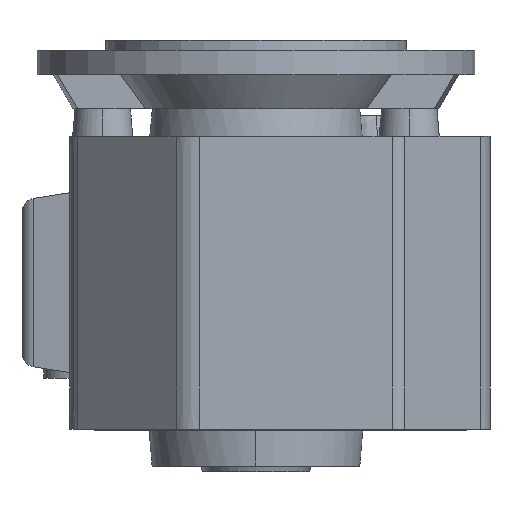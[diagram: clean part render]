
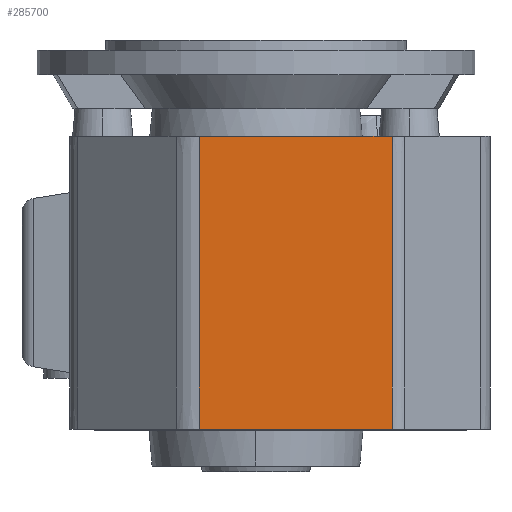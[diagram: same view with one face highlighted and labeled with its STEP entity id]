
A CAD part, left-side view. The second image highlights one B-rep face of the part: STEP entity #285700.
In plain terms, the highlighted planar face has unit normal (-1, 0, 0).
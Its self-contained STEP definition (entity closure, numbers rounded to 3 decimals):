
#150570=CARTESIAN_POINT('',(-368.958,-231.769,
-8.483));
#150580=VERTEX_POINT('',#150570);
#150610=CARTESIAN_POINT('',(-368.958,-393.27,
-8.483));
#150620=DIRECTION('',(0.,1.,0.));
#150630=VECTOR('',#150620,1.);
#150640=LINE('',#150610,#150630);
#150650=CARTESIAN_POINT('',(-368.958,-302.225,
-8.483));
#150660=VERTEX_POINT('',#150650);
#150670=EDGE_CURVE('',#150660,#150580,#150640,.T.);
#257700=CARTESIAN_POINT('',(-368.958,-302.225,
98.517));
#257710=VERTEX_POINT('',#257700);
#257740=CARTESIAN_POINT('',(-368.958,-393.27,
98.517));
#257750=DIRECTION('',(0.,1.,0.));
#257760=VECTOR('',#257750,1.);
#257770=LINE('',#257740,#257760);
#257780=CARTESIAN_POINT('',(-368.958,-231.769,
98.517));
#257790=VERTEX_POINT('',#257780);
#257800=EDGE_CURVE('',#257710,#257790,#257770,.T.);
#284550=CARTESIAN_POINT('',(-368.958,-231.769,
-14.483));
#284560=CARTESIAN_POINT('',(-368.958,-231.769,
-10.266));
#284570=CARTESIAN_POINT('',(-368.958,-231.769,
-5.606));
#284580=CARTESIAN_POINT('',(-368.958,-231.769,
-0.503));
#284590=CARTESIAN_POINT('',(-368.958,-231.769,
0.827));
#284600=CARTESIAN_POINT('',(-368.958,-231.769,
7.034));
#284610=CARTESIAN_POINT('',(-368.958,-231.769,
12.797));
#284620=CARTESIAN_POINT('',(-368.958,-231.769,
19.558));
#284630=CARTESIAN_POINT('',(-368.958,-231.769,
27.76));
#284640=CARTESIAN_POINT('',(-368.958,-231.769,
36.183));
#284650=CARTESIAN_POINT('',(-368.958,-231.769,
43.387));
#284660=CARTESIAN_POINT('',(-368.958,-231.769,
44.052));
#284670=CARTESIAN_POINT('',(-368.958,-231.769,
44.496));
#284680=CARTESIAN_POINT('',(-368.958,-231.769,
45.064));
#284690=CARTESIAN_POINT('',(-368.958,-231.769,
45.41));
#284700=CARTESIAN_POINT('',(-368.958,-231.769,
46.028));
#284710=CARTESIAN_POINT('',(-368.958,-231.769,
46.51));
#284720=CARTESIAN_POINT('',(-368.958,-231.769,
53.06));
#284730=CARTESIAN_POINT('',(-368.958,-231.769,
59.573));
#284740=CARTESIAN_POINT('',(-368.958,-231.769,
66.093));
#284750=CARTESIAN_POINT('',(-368.958,-231.769,
72.643));
#284760=CARTESIAN_POINT('',(-368.958,-231.769,
79.058));
#284770=CARTESIAN_POINT('',(-368.958,-231.769,
85.628));
#284780=CARTESIAN_POINT('',(-368.958,-231.769,
86.53));
#284790=CARTESIAN_POINT('',(-368.958,-231.769,
87.762));
#284800=CARTESIAN_POINT('',(-368.958,-231.769,
108.212));
#284810=CARTESIAN_POINT('',(-368.958,-231.769,
128.23));
#284820=CARTESIAN_POINT('',(-368.958,-231.769,
147.817));
#284830=(BOUNDED_CURVE() B_SPLINE_CURVE(3,(#284550,#284560,#284570,
#284580,#284590,#284600,#284610,#284620,#284630,#284640,#284650,#284660,
#284670,#284680,#284690,#284700,#284710,#284720,#284730,#284740,#284750,
#284760,#284770,#284780,#284790,#284800,#284810,#284820),.UNSPECIFIED.,
.F.,.F.) B_SPLINE_CURVE_WITH_KNOTS((4,1,1,1,1,2,1,1,1,1,2,2,1,1,1,1,1,1,
1,1,1,1,4),(164.047,176.697,178.027,
179.357,180.687,196.647,200.969,
221.252,221.917,222.582,223.247,
224.286,225.102,225.729,243.936,
244.642,245.289,263.587,263.887,
264.999,266.292,267.584,326.347),
.UNSPECIFIED.) CURVE() GEOMETRIC_REPRESENTATION_ITEM() 
RATIONAL_B_SPLINE_CURVE((1.,1.,1.,1.,1.,1.,1.,1.,1.,1.,1.,1.,1.,1.,1.,1.
,1.,1.,1.,1.,1.,1.,1.,1.,1.,1.,1.,1.)) REPRESENTATION_ITEM(''));
#284840=EDGE_CURVE('',#150580,#257790,#284830,.T.);
#284930=CARTESIAN_POINT('',(-368.958,-302.225,
148.017));
#284940=CARTESIAN_POINT('',(-368.958,-302.225,
128.372));
#284950=CARTESIAN_POINT('',(-368.958,-302.225,
108.297));
#284960=CARTESIAN_POINT('',(-368.958,-302.225,
87.792));
#284970=CARTESIAN_POINT('',(-368.958,-302.225,
86.605));
#284980=CARTESIAN_POINT('',(-368.958,-302.225,
85.747));
#284990=CARTESIAN_POINT('',(-368.958,-302.225,
79.202));
#285000=CARTESIAN_POINT('',(-368.958,-302.225,
72.772));
#285010=CARTESIAN_POINT('',(-368.958,-302.225,
66.227));
#285020=CARTESIAN_POINT('',(-368.958,-302.225,
59.734));
#285030=CARTESIAN_POINT('',(-368.958,-302.225,
53.248));
#285040=CARTESIAN_POINT('',(-368.958,-302.225,
46.703));
#285050=CARTESIAN_POINT('',(-368.958,-302.225,
46.078));
#285060=CARTESIAN_POINT('',(-368.958,-302.225,
45.661));
#285070=CARTESIAN_POINT('',(-368.958,-302.225,
44.878));
#285080=CARTESIAN_POINT('',(-368.958,-302.225,
44.238));
#285090=CARTESIAN_POINT('',(-368.958,-302.225,
43.463));
#285100=CARTESIAN_POINT('',(-368.958,-302.225,
43.107));
#285110=CARTESIAN_POINT('',(-368.958,-302.225,
36.049));
#285120=CARTESIAN_POINT('',(-368.958,-302.225,
27.657));
#285130=CARTESIAN_POINT('',(-368.958,-302.225,
19.486));
#285140=CARTESIAN_POINT('',(-368.958,-302.225,
12.784));
#285150=CARTESIAN_POINT('',(-368.958,-302.225,
7.042));
#285160=CARTESIAN_POINT('',(-368.958,-302.225,
0.859));
#285170=CARTESIAN_POINT('',(-368.958,-302.225,
-0.533));
#285180=CARTESIAN_POINT('',(-368.958,-302.225,
-7.624));
#285190=CARTESIAN_POINT('',(-368.958,-302.225,
-14.274));
#285200=CARTESIAN_POINT('',(-368.958,-302.225,
-20.483));
#285210=(BOUNDED_CURVE() B_SPLINE_CURVE(3,(#284930,#284940,#284950,
#284960,#284970,#284980,#284990,#285000,#285010,#285020,#285030,#285040,
#285050,#285060,#285070,#285080,#285090,#285100,#285110,#285120,#285130,
#285140,#285150,#285160,#285170,#285180,#285190,#285200),.UNSPECIFIED.,
.F.,.F.) B_SPLINE_CURVE_WITH_KNOTS((4,1,1,1,1,1,1,1,1,1,1,1,2,2,1,1,1,2,
1,1,1,1,4),(-34.,24.938,26.225,27.513,28.5,28.8,
47.147,47.791,48.434,66.625,
67.25,68.069,68.5,70.418,
70.825,71.487,91.594,96.,
111.7,113.225,114.55,115.875,
134.5),.UNSPECIFIED.) CURVE() GEOMETRIC_REPRESENTATION_ITEM()
 RATIONAL_B_SPLINE_CURVE((1.,1.,1.,1.,1.,1.,1.,1.,1.,1.,1.,1.,1.,1.,1.,
1.,1.,1.,1.,1.,1.,1.,1.,1.,1.,1.,1.,1.)) REPRESENTATION_ITEM(''));
#285220=EDGE_CURVE('',#257710,#150660,#285210,.T.);
#285590=CARTESIAN_POINT('',(-368.958,-300.942,
59.966));
#285600=DIRECTION('',(1.,0.,0.));
#285610=DIRECTION('',(0.,-1.,0.));
#285620=AXIS2_PLACEMENT_3D('',#285590,#285600,#285610);
#285630=PLANE('',#285620);
#285640=ORIENTED_EDGE('',*,*,#150670,.F.);
#285650=ORIENTED_EDGE('',*,*,#284840,.F.);
#285660=ORIENTED_EDGE('',*,*,#257800,.T.);
#285670=ORIENTED_EDGE('',*,*,#285220,.F.);
#285680=EDGE_LOOP('',(#285670,#285660,#285650,#285640));
#285690=FACE_OUTER_BOUND('',#285680,.T.);
#285700=ADVANCED_FACE('',(#285690),#285630,.F.);
